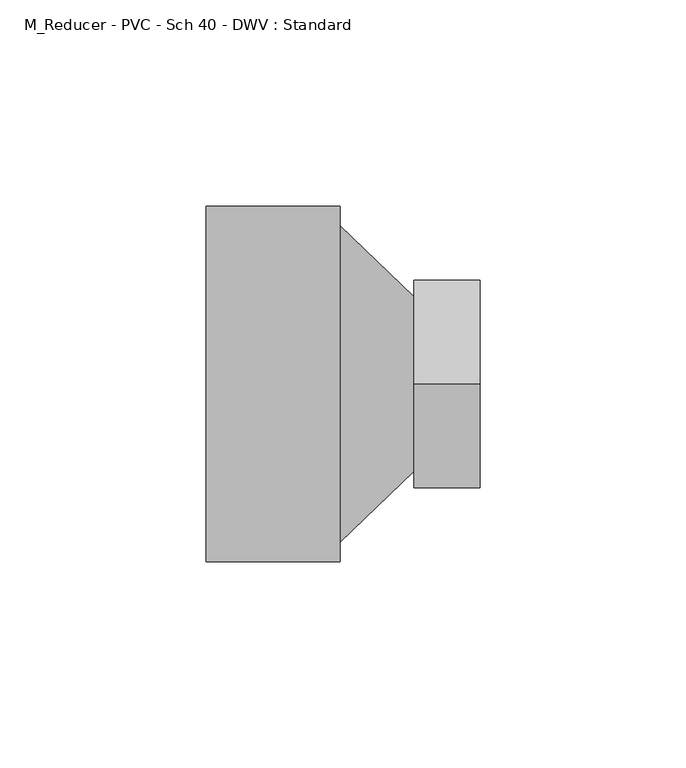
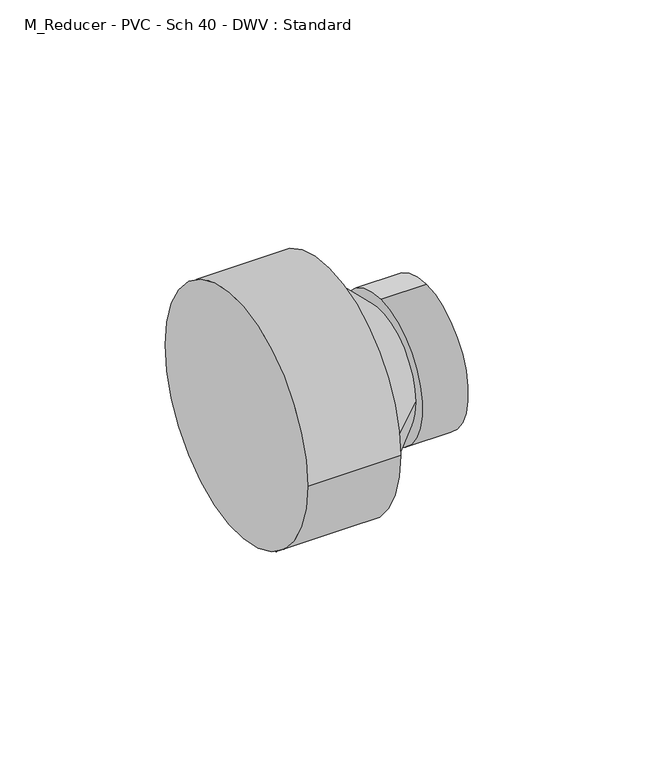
"""IFC4 building model written with IfcOpenShell, lengths in millimetres: pipe fitting geometry, M_Reducer - PVC - Sch 40 - DWV : Standard."""

import ifcopenshell
import ifcopenshell.guid

model = None  # the IFC model being written
_history = None  # IfcOwnerHistory: only IFC2X3 demands one
_inside = {}  # id of a spatial element -> (the spatial element, [elements in it])
_under = {}  # id of a project, library or spatial element -> (it, [spatial elements below it])
_declared = {}  # id of a project -> (the project, [libraries it declares])
_typed = {}  # id of a type object -> (the type object, [elements of that type])
_made_of = {}  # id of a material, layer set ... -> (it, [elements and type objects made of it])


def new_model(schema):
    """Start an empty IFC model of exactly this schema.

    Asked for "IFC4X3", IfcOpenShell would pick the latest addendum, in which some entities
    have other attributes; the version numbers below select the first issue.
    IFC2X3 requires an IfcOwnerHistory on every rooted entity: one is made here for all.
    """
    global model, _history
    if schema == "IFC4X3":
        model = ifcopenshell.file(schema_version=(4, 3, 0, 0))
    else:
        model = ifcopenshell.file(schema=schema)
    _inside.clear()
    _under.clear()
    _declared.clear()
    _typed.clear()
    _made_of.clear()
    _history = None
    if model.schema == "IFC2X3":
        org = make("IfcOrganization", Name="unknown")
        user = make(
            "IfcPersonAndOrganization",
            ThePerson=make("IfcPerson", FamilyName="unknown"),
            TheOrganization=org,
        )
        app = make(
            "IfcApplication",
            ApplicationDeveloper=org,
            Version="unknown",
            ApplicationFullName="unknown",
            ApplicationIdentifier="unknown",
        )
        _history = make(
            "IfcOwnerHistory",
            OwningUser=user,
            OwningApplication=app,
            ChangeAction="ADDED",
            CreationDate=0,
        )
    return model


def make(cls, **values):
    """One entity of the class cls with the attributes given. An attribute that is None is left unset."""
    return model.create_entity(
        cls, **{name: value for name, value in values.items() if value is not None}
    )


def rooted(cls, **values):
    """An entity with a GlobalId (a new one), such as an element, a storey or a relation."""
    return make(cls, GlobalId=ifcopenshell.guid.new(), OwnerHistory=_history, **values)


def si_unit(unit_type, name, prefix=None):
    """IfcSIUnit, for example si_unit("LENGTHUNIT", "METRE", prefix="MILLI")."""
    return make("IfcSIUnit", UnitType=unit_type, Prefix=prefix, Name=name)


def assignment(units):
    """IfcUnitAssignment: the units of a project."""
    return None if units is None else make("IfcUnitAssignment", Units=units)


def point(xyz):
    """IfcCartesianPoint."""
    return None if xyz is None else make("IfcCartesianPoint", Coordinates=xyz)


def direction(xyz):
    """IfcDirection."""
    return None if xyz is None else make("IfcDirection", DirectionRatios=xyz)


def frame(location, z_axis=None, x_axis=None):
    """IfcAxis2Placement3D, a coordinate frame: its origin and axes. An axis left out is left unset."""
    return make(
        "IfcAxis2Placement3D",
        Location=point(location),
        Axis=direction(z_axis),
        RefDirection=direction(x_axis),
    )


def origin():
    """The frame at (0, 0, 0) with its axes left unset."""
    return frame((0.0, 0.0, 0.0))


def place(relative_to, where):
    """IfcLocalPlacement: puts the frame where relative to a parent placement (None: the world)."""
    return make(
        "IfcLocalPlacement", PlacementRelTo=relative_to, RelativePlacement=where
    )


def context(
    kind, dimensions, precision=None, world=None, true_north=None, identifier=None
):
    """IfcGeometricRepresentationContext, for example the 3D "Model" context."""
    return make(
        "IfcGeometricRepresentationContext",
        ContextIdentifier=identifier,
        ContextType=kind,
        CoordinateSpaceDimension=dimensions,
        Precision=precision,
        WorldCoordinateSystem=world,
        TrueNorth=true_north,
    )


def project(units=None, contexts=None):
    """IfcProject with its units and contexts."""
    return rooted(
        "IfcProject",
        Name="project",
        RepresentationContexts=contexts,
        UnitsInContext=assignment(units),
    )


def spatial(cls, under=None, at=None, **own):
    """A site, building, storey or space (cls), placed at a placement, below another one or the project."""
    s = rooted(cls, ObjectPlacement=at, **own)
    if under is not None:
        _under.setdefault(under.id(), (under, []))[1].append(s)
    return s


def polyline(points):
    """IfcPolyline through the points."""
    return make("IfcPolyline", Points=[point(p) for p in points])


def circle_curve(where, radius):
    """IfcCircle in the frame where."""
    return make("IfcCircle", Position=where, Radius=radius)


def shape(context_of_items, identifier, shape_type, items):
    """IfcShapeRepresentation: the items that make up one representation, for example the "Body"."""
    return make(
        "IfcShapeRepresentation",
        ContextOfItems=context_of_items,
        RepresentationIdentifier=identifier,
        RepresentationType=shape_type,
        Items=items,
    )


def source(mapping_origin, context_of_items, identifier, shape_type, items):
    """IfcRepresentationMap: a shape defined once, which mapped items show again and again."""
    return make(
        "IfcRepresentationMap",
        MappingOrigin=mapping_origin,
        MappedRepresentation=shape(context_of_items, identifier, shape_type, items),
    )


def transform(
    local_origin,
    x_axis=None,
    y_axis=None,
    z_axis=None,
    scale=None,
    scale2=None,
    scale3=None,
    uniform=True,
):
    """IfcCartesianTransformationOperator3D, or its non-uniform kind. x_axis, y_axis, z_axis: its Axis1, 2, 3."""
    if uniform:
        return make(
            "IfcCartesianTransformationOperator3D",
            Axis1=direction(x_axis),
            Axis2=direction(y_axis),
            LocalOrigin=point(local_origin),
            Scale=scale,
            Axis3=direction(z_axis),
        )
    return make(
        "IfcCartesianTransformationOperator3DnonUniform",
        Axis1=direction(x_axis),
        Axis2=direction(y_axis),
        LocalOrigin=point(local_origin),
        Scale=scale,
        Axis3=direction(z_axis),
        Scale2=scale2,
        Scale3=scale3,
    )


def mapped(mapping_source, mapping_target):
    """IfcMappedItem: shows the shape of a source again, moved by a transform."""
    return make(
        "IfcMappedItem", MappingSource=mapping_source, MappingTarget=mapping_target
    )


def made_of(thing, what):
    """Note that an element or type object is made of a material, layer set ...; save() writes the relation."""
    if what is not None:
        _made_of.setdefault(what.id(), (what, []))[1].append(thing)
    return thing


def element(
    cls,
    number,
    at=None,
    inside=None,
    cuts=None,
    type_object=None,
    material=None,
    context=None,
    identifier="Body",
    shape_type=None,
    held_by="IfcProductDefinitionShape",
    body=None,
    shapes=None,
    **own,
):
    """One element of the class cls, such as IfcWall. Its Tag is "e" and its number.

    at: its placement. inside: the storey or other place that contains it. cuts: it is an
    opening in that element (IfcRelVoidsElement). A single representation is given by context,
    identifier, shape_type and body (its items); several are given by shapes. held_by: the class
    of the entity that holds the representations. save() writes the other relations.
    """
    e = rooted(cls, Tag="e%d" % number, ObjectPlacement=at, **own)
    if body is not None:
        shapes = [shape(context, identifier, shape_type, body)]
    if shapes is not None:
        e.Representation = make(held_by, Representations=shapes)
    if inside is not None:
        _inside.setdefault(inside.id(), (inside, []))[1].append(e)
    if cuts is not None:
        rooted(
            "IfcRelVoidsElement", RelatingBuildingElement=cuts, RelatedOpeningElement=e
        )
    if type_object is not None:
        _typed.setdefault(type_object.id(), (type_object, []))[1].append(e)
    return made_of(e, material)


def aggregate(whole, parts):
    """IfcRelAggregates: a whole, such as a stair, and the parts it consists of."""
    return rooted("IfcRelAggregates", RelatingObject=whole, RelatedObjects=parts)


def save(model, path):
    """Write the relations noted so far, then the file.

    IfcRelAggregates (storeys below a building ...), IfcRelContainedInSpatialStructure (elements
    in a storey), IfcRelDefinesByType, IfcRelAssociatesMaterial and IfcRelDeclares: one each for
    every whole, place, type object, material and project.
    """
    for whole, parts in _under.values():
        aggregate(whole, parts)
    for where, things in _inside.values():
        rooted(
            "IfcRelContainedInSpatialStructure",
            RelatedElements=things,
            RelatingStructure=where,
        )
    for kind, things in _typed.values():
        rooted("IfcRelDefinesByType", RelatedObjects=things, RelatingType=kind)
    for what, things in _made_of.values():
        rooted("IfcRelAssociatesMaterial", RelatedObjects=things, RelatingMaterial=what)
    for by, libraries in _declared.values():
        rooted("IfcRelDeclares", RelatingContext=by, RelatedDefinitions=libraries)
    model.write(path)


def plane_surface(at):
    """IfcPlane: the flat surface through the origin of the frame at, square to its z axis."""
    return make("IfcPlane", Position=at)


def cylinder_surface(at, radius):
    """IfcCylindricalSurface: all points at the distance radius from the z axis of the frame at."""
    return make("IfcCylindricalSurface", Position=at, Radius=radius)


def revolved_surface(curve, axis_point, axis_direction):
    """IfcSurfaceOfRevolution: the curve turned about the line through axis_point along axis_direction."""
    return make(
        "IfcSurfaceOfRevolution",
        SweptCurve=make("IfcArbitraryOpenProfileDef", ProfileType="CURVE", Curve=curve),
        AxisPosition=make("IfcAxis1Placement", Location=point(axis_point), Axis=direction(axis_direction)),
    )


def advanced_brep(points, edges, surfaces, faces):
    """IfcAdvancedBrep: a solid bounded by faces that lie on surfaces and meet in shared edges.

    An edge is (start, end): straight between two places in points (the first is 0);
    or (start, end, curve); or (start, end, curve, False) where it runs against its curve.
    A face is (place in surfaces, loops), or (place, loops, False) where it looks against
    its surface's normal. A loop lists edges by number (the first is 1), with a minus sign
    where the edge is run from its end to its start. The first loop is the outer one.
    """
    corners = [point(p) for p in points]
    vertices = [make("IfcVertexPoint", VertexGeometry=c) for c in corners]
    made = []
    for start, end, *more in edges:
        made.append(
            make(
                "IfcEdgeCurve",
                EdgeStart=vertices[start],
                EdgeEnd=vertices[end],
                EdgeGeometry=more[0] if more else make("IfcPolyline", Points=[corners[start], corners[end]]),
                SameSense=more[1] if len(more) > 1 else True,
            )
        )
    hull = []
    for where, loops, *sense in faces:
        bounds = []
        for j, loop in enumerate(loops):
            ring = [make("IfcOrientedEdge", EdgeElement=made[abs(k) - 1], Orientation=k > 0) for k in loop]
            bounds.append(
                make(
                    "IfcFaceOuterBound" if j == 0 else "IfcFaceBound",
                    Bound=make("IfcEdgeLoop", EdgeList=ring),
                    Orientation=True,
                )
            )
        hull.append(make("IfcAdvancedFace", Bounds=bounds, FaceSurface=surfaces[where], SameSense=sense[0] if sense else True))
    return make("IfcAdvancedBrep", Outer=make("IfcClosedShell", CfsFaces=hull))


def m_reducer_pvc_sch_40_dwv_standard_b84ad399(model_context):
    return source(origin(), model_context, "Body", "AdvancedBrep", [
        advanced_brep(
        [(0.0, -43.0871094, 0.0), (0.0, 43.0871094, 0.0), (32.5, -43.0871094, 0.0), (32.5, 43.0871094, 0.0), (32.5, 38.3640625, 0.0), (32.5, -38.3640625, 0.0), (50.4060938, 21.2040625, 0.0), (50.4060937, -21.2040625, 0.0), (50.4060938, 0.0, 25.2671094), (50.4060938, 0.0, -25.2671094), (66.4060938, 0.0, 25.2671094), (66.4060938, 0.0, -25.2671094)],
        [
            (0, 1, circle_curve(frame((0.0, 0.0, 0.0), z_axis=(-1.0, 0.0, 0.0), x_axis=(0.0, 1.0, 0.0)), 43.0871094)),
            (1, 0, circle_curve(frame((0.0, 0.0, 0.0), z_axis=(-1.0, 0.0, 0.0), x_axis=(0.0, 1.0, 0.0)), 43.0871094)),
            (2, 3, circle_curve(frame((32.5, 0.0, 0.0), z_axis=(1.0, 0.0, 0.0), x_axis=(0.0, 1.0, 0.0)), 43.0871094)),
            (3, 2, circle_curve(frame((32.5, 0.0, 0.0), z_axis=(1.0, 0.0, 0.0), x_axis=(0.0, 1.0, 0.0)), 43.0871094)),
            (4, 5, circle_curve(frame((32.5, 0.0, 0.0), z_axis=(-1.0, 0.0, 0.0), x_axis=(0.0, -1.0, 0.0)), 38.3640625)),
            (5, 4, circle_curve(frame((32.5, 0.0, 0.0), z_axis=(-1.0, 0.0, 0.0), x_axis=(0.0, 1.0, 0.0)), 38.3640625)),
            (0, 2),
            (3, 1),
            (4, 6),
            (6, 7, circle_curve(frame((50.4060938, 0.0, 0.0), z_axis=(-1.0, 0.0, 0.0), x_axis=(0.0, -1.0, 0.0)), 21.2040625)),
            (7, 5),
            (7, 6, circle_curve(frame((50.4060938, 0.0, 0.0), z_axis=(-1.0, 0.0, 0.0), x_axis=(0.0, 1.0, 0.0)), 21.2040625)),
            (8, 9, circle_curve(frame((50.4060938, 0.0, 0.0), z_axis=(-1.0, 0.0, 0.0), x_axis=(0.0, 0.0, -1.0)), 25.2671094)),
            (9, 8, circle_curve(frame((50.4060938, 0.0, 0.0), z_axis=(-1.0, 0.0, 0.0), x_axis=(0.0, 0.0, -1.0)), 25.2671094)),
            (10, 11, circle_curve(frame((66.4060938, 0.0, 0.0), z_axis=(1.0, 0.0, 0.0), x_axis=(0.0, 0.0, -1.0)), 25.2671094)),
            (11, 10, circle_curve(frame((66.4060938, 0.0, 0.0), z_axis=(1.0, 0.0, 0.0), x_axis=(0.0, 0.0, -1.0)), 25.2671094)),
            (8, 10),
            (11, 9),
        ],
        [
            plane_surface(frame((0.0, 0.0, 0.0), z_axis=(-1.0, 0.0, 0.0), x_axis=(0.0, 0.0, 1.0))),
            plane_surface(frame((32.5, 0.0, 0.0), z_axis=(1.0, 0.0, 0.0), x_axis=(0.0, 0.0, 1.0))),
            cylinder_surface(frame((0.0, 0.0, 0.0), z_axis=(-1.0, 0.0, 0.0), x_axis=(0.0, 1.0, 0.0)), 43.0871094),
            revolved_surface(polyline([(50.40609380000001, 21.204062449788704, 0.0), (32.5, 38.3640625, 0.0)]), (72.5320804, 0.0, 0.0), (-1.0, 0.0, 0.0)),
            plane_surface(frame((50.4060938, 0.0, 0.0), z_axis=(-1.0, 0.0, 0.0), x_axis=(0.0, 1.0, 0.0))),
            plane_surface(frame((66.4060938, 0.0, 0.0), z_axis=(1.0, 0.0, 0.0), x_axis=(0.0, 1.0, 0.0))),
            cylinder_surface(frame((50.4060938, 0.0, 0.0), z_axis=(-1.0, 0.0, 0.0), x_axis=(0.0, 0.0, -1.0)), 25.2671094),
        ],
        [
            (0, [[1, 2]]),
            (1, [[3, 4], [5, 6]]),
            (2, [[-1, 7, -4, 8]]),
            (2, [[-2, -8, -3, -7]]),
            (3, [[9, 10, 11, -5]]),
            (3, [[-9, -6, -11, 12]]),
            (4, [[13, 14], [-10, -12]]),
            (5, [[15, 16]]),
            (6, [[-13, 17, -16, 18]]),
            (6, [[-14, -18, -15, -17]]),
        ],
    ),
    ])


if __name__ == "__main__":
    model = new_model("IFC4")
    model_context = context("Model", 3, world=origin())
    ifc_project = project(units=[si_unit("LENGTHUNIT", "METRE", prefix="MILLI")], contexts=[model_context])
    site = spatial("IfcSite", under=ifc_project)
    building = spatial("IfcBuilding", under=site)
    placement = place(None, origin())
    m_reducer_pvc_sch_40_dwv_standard_shape = m_reducer_pvc_sch_40_dwv_standard_b84ad399(model_context)
    element("IfcPipeFitting", 1, ObjectType="M_Reducer - PVC - Sch 40 - DWV : Standard", at=placement, inside=building, context=model_context, shape_type="MappedRepresentation", body=[
        mapped(m_reducer_pvc_sch_40_dwv_standard_shape, transform((0.0, 0.0, 0.0), x_axis=(1.0, 0.0, 0.0), y_axis=(0.0, 1.0, 0.0), z_axis=(0.0, 0.0, 1.0))),
    ])
    save(model, "model.ifc")
